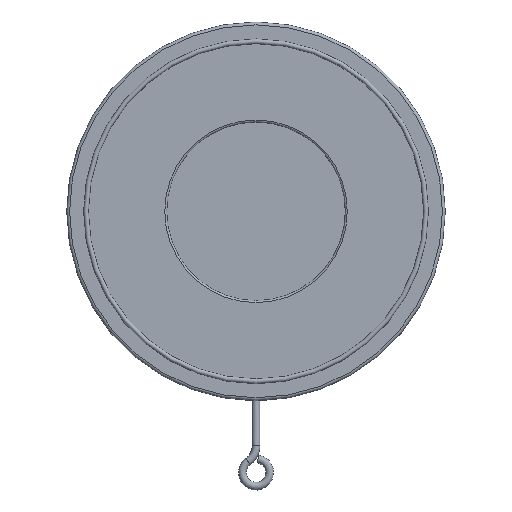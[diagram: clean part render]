
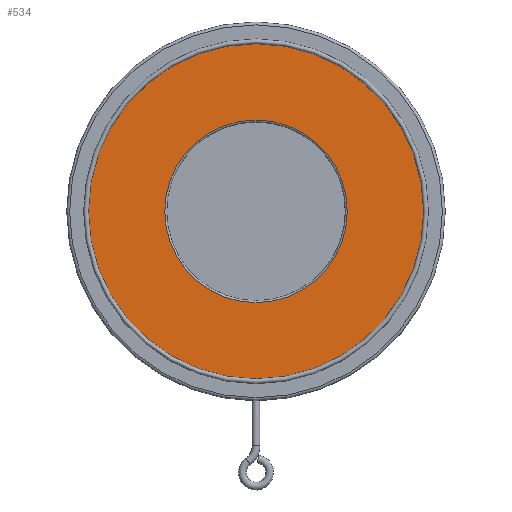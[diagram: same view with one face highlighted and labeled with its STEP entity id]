
A CAD part, top view. The second image highlights one B-rep face of the part: STEP entity #534.
In plain terms, the highlighted planar face has unit normal (0, 0, 1).
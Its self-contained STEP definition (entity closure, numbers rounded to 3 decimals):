
#534 = ADVANCED_FACE( '', ( #1207, #1208 ), #1209, .F. );
#1207 = FACE_BOUND( '', #2152, .T. );
#1208 = FACE_OUTER_BOUND( '', #2153, .T. );
#1209 = PLANE( '', #2154 );
#2152 = EDGE_LOOP( '', ( #4105 ) );
#2153 = EDGE_LOOP( '', ( #4106 ) );
#2154 = AXIS2_PLACEMENT_3D( '', #4107, #4108, #4109 );
#4105 = ORIENTED_EDGE( '', *, *, #5879, .T. );
#4106 = ORIENTED_EDGE( '', *, *, #5880, .T. );
#4107 = CARTESIAN_POINT( '', ( 0., 0., 9. ) );
#4108 = DIRECTION( '', ( 0., 0., -1. ) );
#4109 = DIRECTION( '', ( -1., 0., 0. ) );
#5879 = EDGE_CURVE( '', #7107, #7107, #7108, .T. );
#5880 = EDGE_CURVE( '', #7109, #7109, #7110, .T. );
#7107 = VERTEX_POINT( '', #10187 );
#7108 = CIRCLE( '', #10188, 47. );
#7109 = VERTEX_POINT( '', #10189 );
#7110 = CIRCLE( '', #10190, 86.325 );
#10187 = CARTESIAN_POINT( '', ( -47., 0., 9. ) );
#10188 = AXIS2_PLACEMENT_3D( '', #10869, #10870, #10871 );
#10189 = CARTESIAN_POINT( '', ( 86.325, 0., 9. ) );
#10190 = AXIS2_PLACEMENT_3D( '', #10872, #10873, #10874 );
#10869 = CARTESIAN_POINT( '', ( 0., 0., 9. ) );
#10870 = DIRECTION( '', ( 0., 0., -1. ) );
#10871 = DIRECTION( '', ( -1., 0., 0. ) );
#10872 = CARTESIAN_POINT( '', ( 0., 0., 9. ) );
#10873 = DIRECTION( '', ( 0., 0., 1. ) );
#10874 = DIRECTION( '', ( 1., 0., 0. ) );
